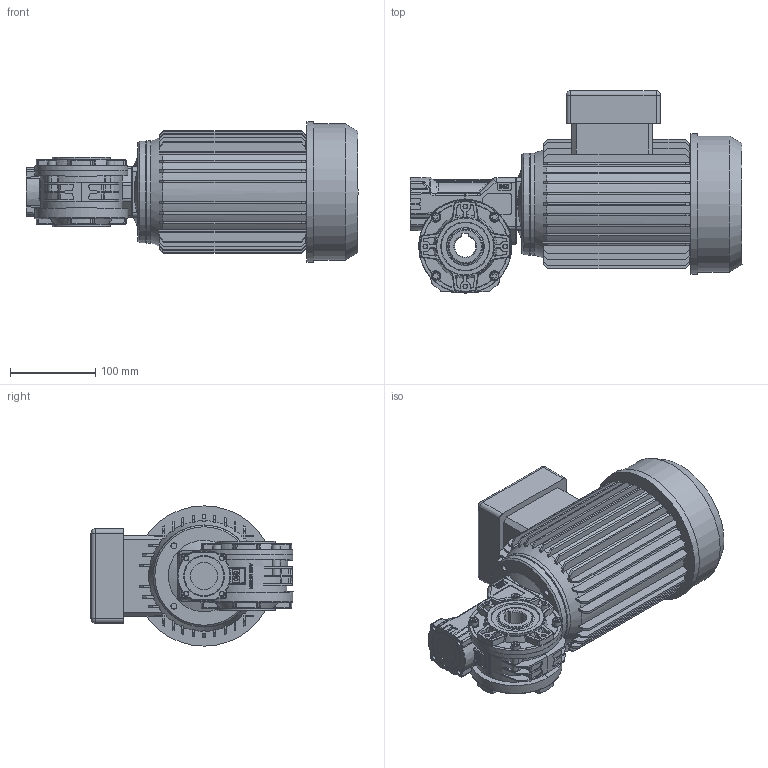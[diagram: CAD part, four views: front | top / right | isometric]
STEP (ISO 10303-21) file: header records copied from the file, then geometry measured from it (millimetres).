
FILE_DESCRIPTION( ( 'Unknown' ), '1' );
FILE_NAME( 'E:/services/configuratordownloads/customers/HYDROMEC/VSF/download/D7ADF11146B567B5C97E1992E923A8/STEP/D7ADF11146B567B5C97E1992E923A8.3d.stp', 'Unknown', ( 'Unknown' ), ( 'Unknown' ), 'PSStep 10.1', 'Unknown', ' ' );
FILE_SCHEMA( ( 'AUTOMOTIVE_DESIGN { 1 0 10303 214 1 1 1 1 }' ) );
Length unit declared in the file: millimetre
Products named in the file (1): 0508800
Bounding box: 390.5 x 237.73 x 165 mm (x, y, z)
Volume: 5513759.1 mm3; surface area: 400012.1 mm2
Topology: 1 solids, 13 shells, 1434 faces, 3735 edges, 2424 vertices
Faces by surface type: plane 769, cylinder 223, cone 217, bspline 173, torus 24, sphere 14, extrusion 13, revolution 1
Full cylindrical faces by diameter (mm): 4.917 x20, 6 x4, 6.8 x8, 7.15 x4, 10 x4, 30 x2, 32 x1, 40 x4, 41 x2, 46.3 x1, 68 x2, 80 x1, 120 x1, 130.261 x1, 160 x1, 165 x1
Entity records: 68254 total; most frequent: CARTESIAN_POINT 23963, ORIENTED_EDGE 7012, DIRECTION 6294, EDGE_CURVE 3506, AXIS2_PLACEMENT_3D 2389, VERTEX_POINT 2358, EDGE_LOOP 1722, FACE_OUTER_BOUND 1517
